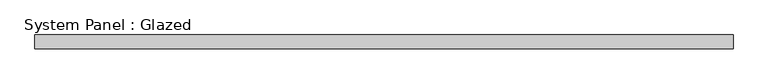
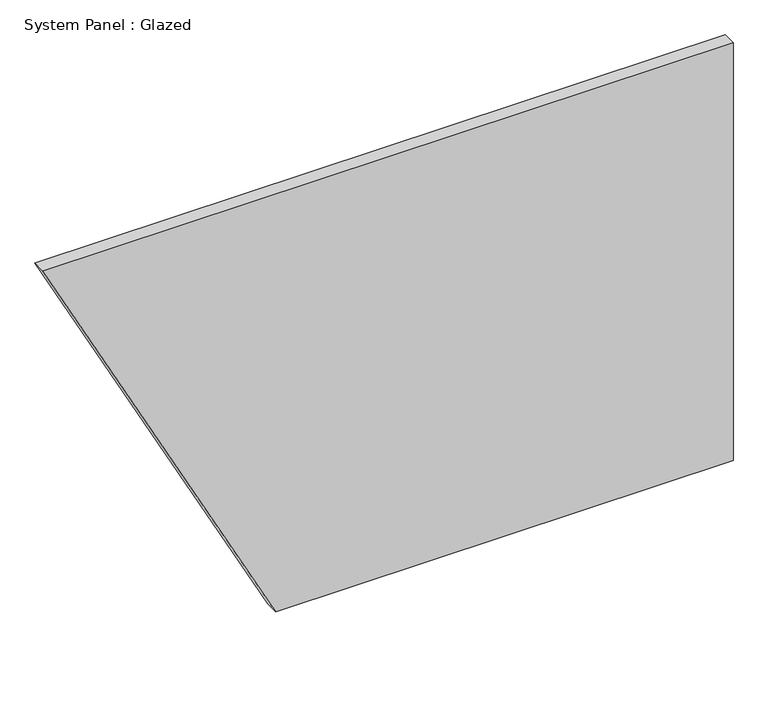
"""IFC4 building model written with IfcOpenShell, lengths in millimetres: plate geometry, System Panel : Glazed."""

from ifc_helpers import new_model, si_unit, frame, origin, place, context, project, spatial, polyline, outline, extrude, source, transform, mapped, element, save


def system_panel_glazed_0f48b8cc(model_context):
    return source(origin(), model_context, "Body", "SweptSolid", [
        extrude(outline(polyline([(0.0, -202.9127399), (0.0, 623.1031054), (798.0393929, 623.1031054), (798.0393929, -623.1031054), (0.0, -202.9127399)])), frame((0.0, -12.5, 0.0), z_axis=(0.0, 1.0, 0.0), x_axis=(0.0, 0.0, 1.0)), (0.0, 0.0, 1.0), 25.0),
    ])


if __name__ == "__main__":
    model = new_model("IFC4")
    model_context = context("Model", 3, world=origin())
    ifc_project = project(units=[si_unit("LENGTHUNIT", "METRE", prefix="MILLI")], contexts=[model_context])
    site = spatial("IfcSite", under=ifc_project)
    building = spatial("IfcBuilding", under=site)
    placement = place(None, origin())
    system_panel_glazed_shape = system_panel_glazed_0f48b8cc(model_context)
    element("IfcPlate", 1, ObjectType="System Panel : Glazed", at=placement, inside=building, context=model_context, shape_type="MappedRepresentation", body=[
        mapped(system_panel_glazed_shape, transform((0.0, 0.0, 0.0), x_axis=(1.0, 0.0, 0.0), y_axis=(0.0, 1.0, 0.0), z_axis=(0.0, 0.0, 1.0))),
    ])
    save(model, "model.ifc")
